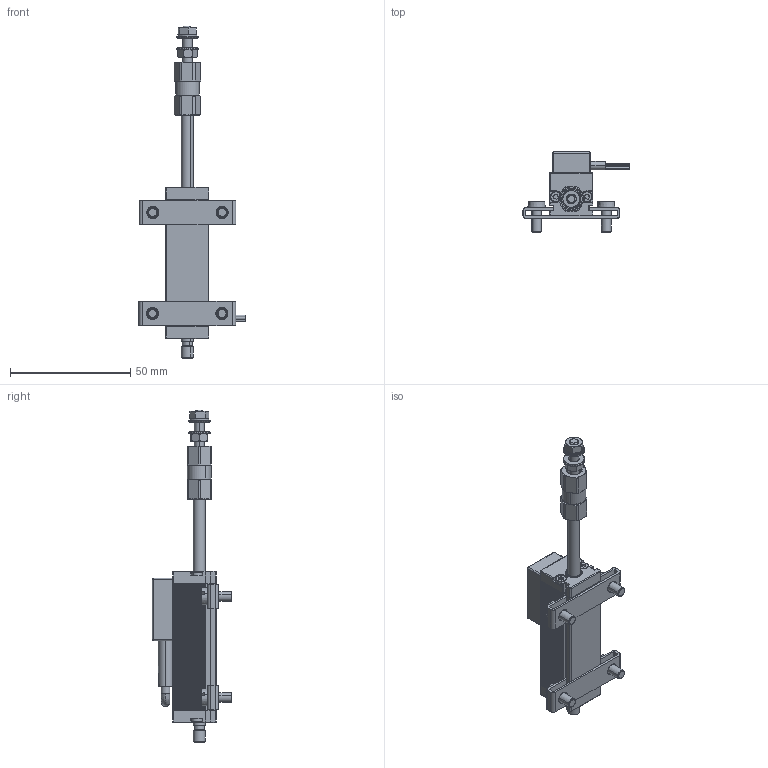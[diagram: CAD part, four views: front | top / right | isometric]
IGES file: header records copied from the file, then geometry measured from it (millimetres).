
Start section: SolidWorks IGES file using analytic representation for surfaces
Global section: file name: E:\Salzinger\I-net_3D\T-Serie_Essentials\T_TS_TR_TRS_-_SLDPRTs\T_025.IGS; native system: SolidWorks 2008; preprocessor: SolidWorks 2008; author: salzinger; date: 081105.104211; units: millimetre
Bounding box: 44.13 x 33.18 x 138 mm (x, y, z)
Surface area: 20263.3 mm2 (no closed solid volume)
Topology: 0 solids, 0 shells, 1154 faces, 11908 edges, 11890 vertices
Faces by surface type: revolution 704, bspline 450
